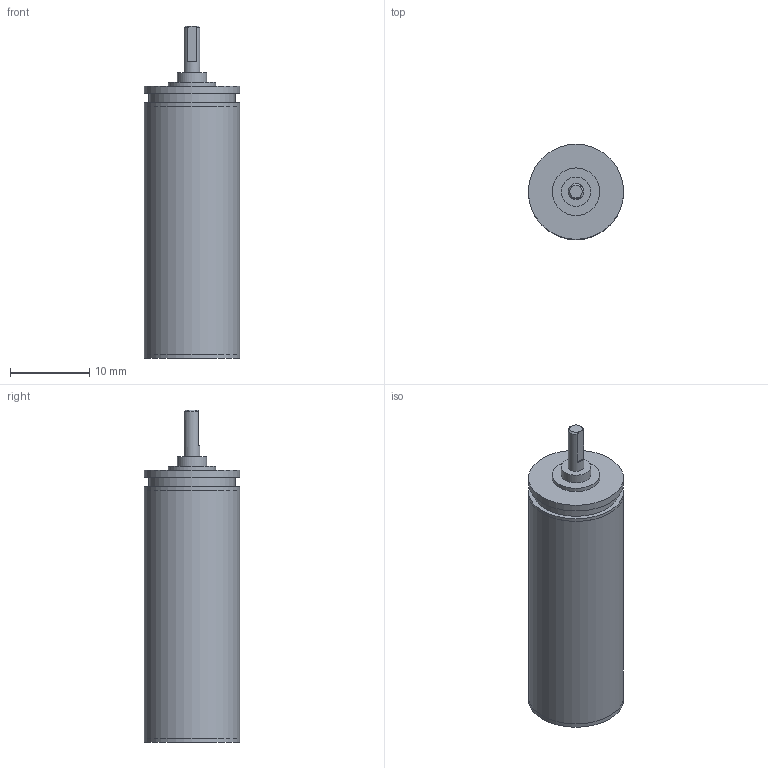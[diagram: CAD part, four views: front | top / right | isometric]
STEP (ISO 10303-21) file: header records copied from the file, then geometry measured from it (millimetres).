
FILE_DESCRIPTION(/* description */ (''),/* implementation_level */ '2;1');
FILE_NAME(/* name */ '12-3_12.stp',/* time_stamp */ '2016-08-24T10:15:19+02:00',/* author */ ('DR. FRITZ FAULHABER GmbH & Co. KG'),/* organization */ ('DR. FRITZ FAULHABER GmbH & Co. KG'),/* preprocessor_version */ 'ST-DEVELOPER v16',/* originating_system */ 'SIEMENS PLM Software NX 10.0',/* authorisation */ '');
FILE_SCHEMA (('AUTOMOTIVE_DESIGN { 1 0 10303 214 3 1 1 1 }'));
Length unit declared in the file: millimetre
Products named in the file (1): H00000575_A
Bounding box: 12 x 12 x 41.9 mm (x, y, z)
Volume: 3828.6 mm3; surface area: 1681.4 mm2
Topology: 1 solids, 1 shells, 32 faces, 52 edges, 34 vertices
Faces by surface type: plane 16, cylinder 14, cone 2
Full cylindrical faces by diameter (mm): 2 x1, 2.48 x1, 2.6 x1, 3.7 x1, 5 x1, 6 x2, 10.88 x1, 11.99 x2, 12 x4
Entity records: 692 total; most frequent: DIRECTION 129, CARTESIAN_POINT 115, ORIENTED_EDGE 70, AXIS2_PLACEMENT_3D 63, EDGE_LOOP 59, FACE_BOUND 54, EDGE_CURVE 35, ADVANCED_FACE 32
